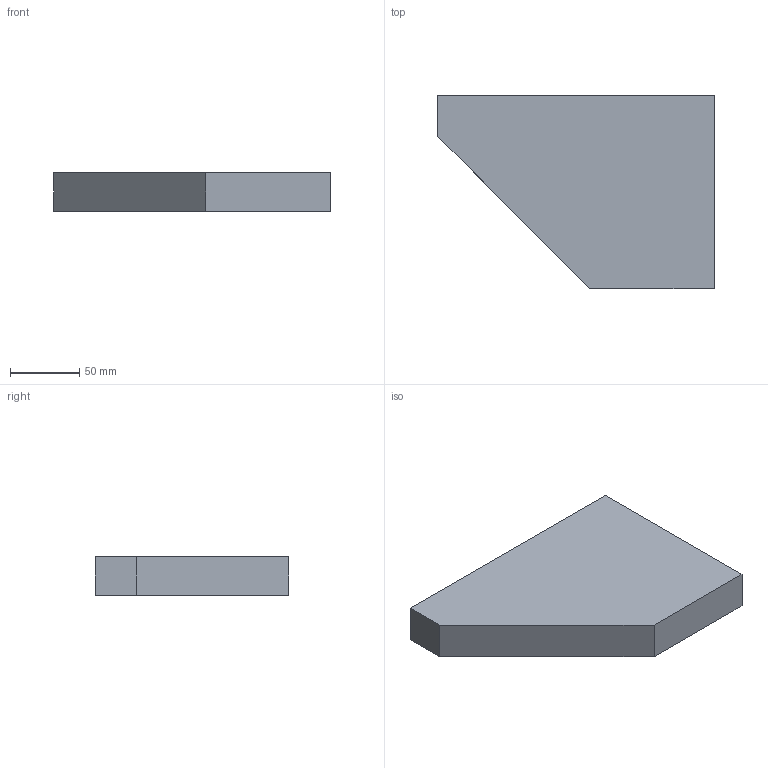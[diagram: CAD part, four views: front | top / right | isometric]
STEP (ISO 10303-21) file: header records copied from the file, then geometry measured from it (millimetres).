
FILE_DESCRIPTION(('STEP AP203'), '1');
FILE_NAME('ﾒﾏﾏﾔ1800.01.01.16.002 - ﾐ裔', '', ('UNSPECIFIED'), ('UNSPECIFIED'), 'C3D Converter', 'C3D Toolkit', '');
FILE_SCHEMA(('CONFIG_CONTROL_DESIGN'));
Length unit declared in the file: millimetre
Products named in the file (1): ТППФ1800.01.01.16.002
Bounding box: 200 x 140 x 28 mm (x, y, z)
Volume: 604535.8 mm3; surface area: 65680.1 mm2
Topology: 1 solids, 1 shells, 22 faces, 50 edges, 30 vertices
Faces by surface type: cone 10, plane 7, cylinder 5
Full cylindrical faces by diameter (mm): 8.376 x5
Entity records: 705 total; most frequent: DIRECTION 91, CARTESIAN_POINT 78, ORIENTED_EDGE 60, AXIS2_PLACEMENT_3D 38, EDGE_LOOP 37, EDGE_CURVE 30, FACE_OUTER_BOUND 25, VERTEX_POINT 25
